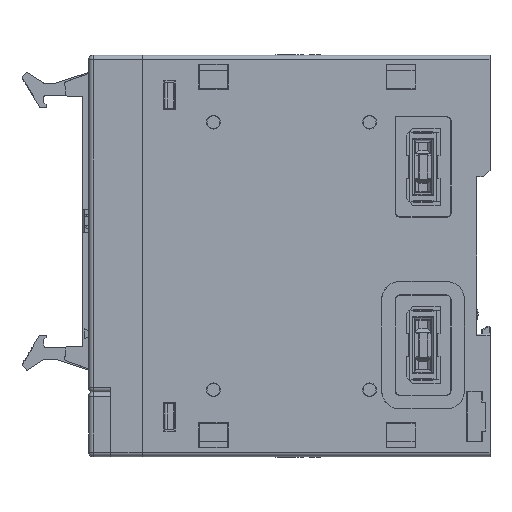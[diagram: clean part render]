
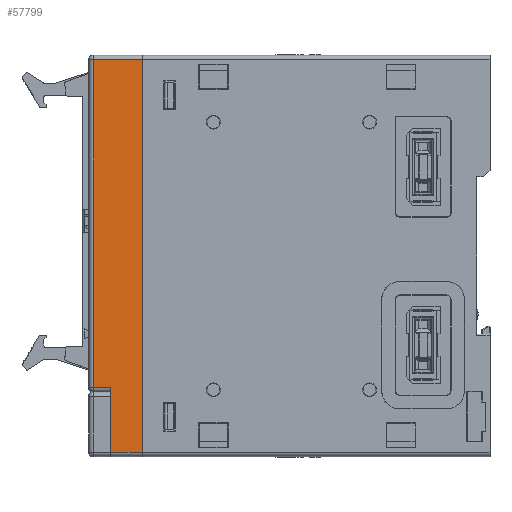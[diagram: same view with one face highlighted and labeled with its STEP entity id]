
A CAD part, left-side view. The second image highlights one B-rep face of the part: STEP entity #57799.
In plain terms, the highlighted planar face has unit normal (-1, 0, 0).
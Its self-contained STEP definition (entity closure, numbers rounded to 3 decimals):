
#4444=DIRECTION('',(0.,0.,1.));
#4445=VECTOR('',#4444,88.);
#4446=CARTESIAN_POINT('',(-13.3,78.,-44.));
#4447=LINE('',#4446,#4445);
#4698=DIRECTION('',(0.,0.,-1.));
#4699=VECTOR('',#4698,14.5);
#4700=CARTESIAN_POINT('',(-13.3,85.,-29.5));
#4701=LINE('',#4700,#4699);
#5013=DIRECTION('',(0.,1.,0.));
#5014=VECTOR('',#5013,4.);
#5015=CARTESIAN_POINT('',(-13.3,85.,-29.5));
#5016=LINE('',#5015,#5014);
#5020=DIRECTION('',(0.,0.,1.));
#5021=VECTOR('',#5020,73.5);
#5022=CARTESIAN_POINT('',(-13.3,89.,-29.5));
#5023=LINE('',#5022,#5021);
#5027=DIRECTION('',(0.,-1.,0.));
#5028=VECTOR('',#5027,11.);
#5029=CARTESIAN_POINT('',(-13.3,89.,44.));
#5030=LINE('',#5029,#5028);
#5034=DIRECTION('',(0.,-1.,0.));
#5035=VECTOR('',#5034,7.);
#5036=CARTESIAN_POINT('',(-13.3,85.,-44.));
#5037=LINE('',#5036,#5035);
#45925=CARTESIAN_POINT('',(-13.3,78.,-44.));
#45927=VERTEX_POINT('',#45925);
#45931=CARTESIAN_POINT('',(-13.3,85.,-44.));
#45932=VERTEX_POINT('',#45931);
#45942=CARTESIAN_POINT('',(-13.3,78.,44.));
#45944=VERTEX_POINT('',#45942);
#45949=CARTESIAN_POINT('',(-13.3,89.,44.));
#45951=VERTEX_POINT('',#45949);
#45961=CARTESIAN_POINT('',(-13.3,85.,-29.5));
#45962=CARTESIAN_POINT('',(-13.3,89.,-29.5));
#45963=VERTEX_POINT('',#45961);
#45964=VERTEX_POINT('',#45962);
#57785=CARTESIAN_POINT('',(-13.3,78.,-45.));
#57786=DIRECTION('',(-1.,0.,0.));
#57787=DIRECTION('',(0.,0.,1.));
#57788=AXIS2_PLACEMENT_3D('',#57785,#57786,#57787);
#57789=PLANE('',#57788);
#57790=ORIENTED_EDGE('',*,*,#57779,.T.);
#57791=ORIENTED_EDGE('',*,*,#57754,.T.);
#57793=ORIENTED_EDGE('',*,*,#57792,.T.);
#57794=ORIENTED_EDGE('',*,*,#57403,.F.);
#57795=ORIENTED_EDGE('',*,*,#57461,.F.);
#57796=ORIENTED_EDGE('',*,*,#57551,.F.);
#57797=EDGE_LOOP('',(#57790,#57791,#57793,#57794,#57795,#57796));
#57798=FACE_OUTER_BOUND('',#57797,.F.);
#57799=ADVANCED_FACE('',(#57798),#57789,.T.);
#57403=EDGE_CURVE('',#45927,#45944,#4447,.T.);
#57461=EDGE_CURVE('',#45932,#45927,#5037,.T.);
#57551=EDGE_CURVE('',#45963,#45932,#4701,.T.);
#57754=EDGE_CURVE('',#45964,#45951,#5023,.T.);
#57779=EDGE_CURVE('',#45963,#45964,#5016,.T.);
#57792=EDGE_CURVE('',#45951,#45944,#5030,.T.);
